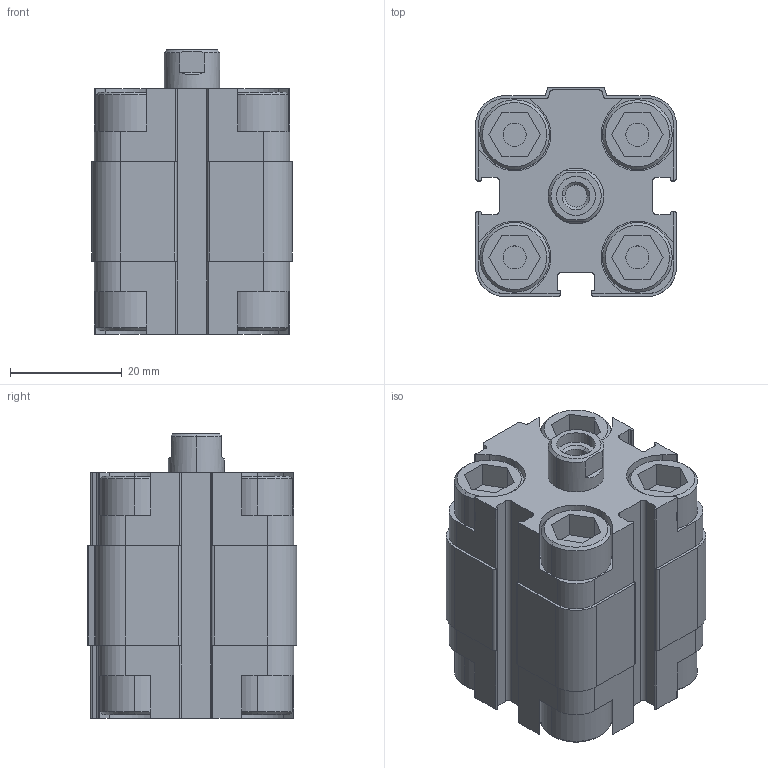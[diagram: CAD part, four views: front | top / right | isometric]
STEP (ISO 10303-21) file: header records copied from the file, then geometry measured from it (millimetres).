
FILE_DESCRIPTION (( 'STEP AP203' ), '1' );
FILE_NAME ('QF0200005A.step', '2012-10-18T17:03:24', ( '' ), ( '' ), 'SwSTEP 2.0', 'SolidWorks 2012', '' );
FILE_SCHEMA (( 'CONFIG_CONTROL_DESIGN' ));
Length unit declared in the file: millimetre
Products named in the file (1): QF0200005A
Bounding box: 36 x 37.5 x 50.95 mm (x, y, z)
Volume: 46409 mm3; surface area: 15267.4 mm2
Topology: 1 solids, 1 shells, 317 faces, 830 edges, 545 vertices
Faces by surface type: plane 186, cylinder 106, cone 25
Entity records: 9838 total; most frequent: CARTESIAN_POINT 1723, DIRECTION 1705, ORIENTED_EDGE 1660, EDGE_CURVE 830, VECTOR 571, LINE 571, AXIS2_PLACEMENT_3D 567, VERTEX_POINT 545
